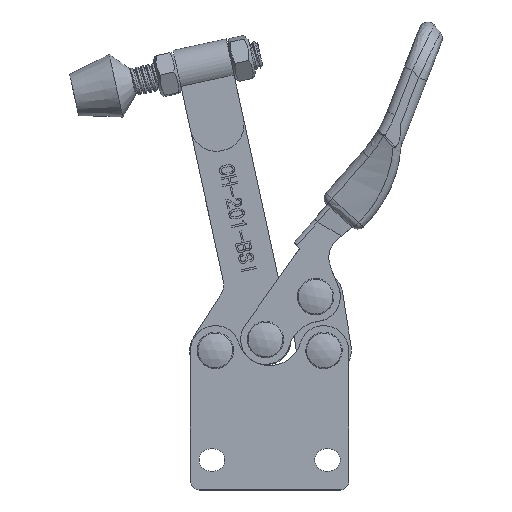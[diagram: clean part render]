
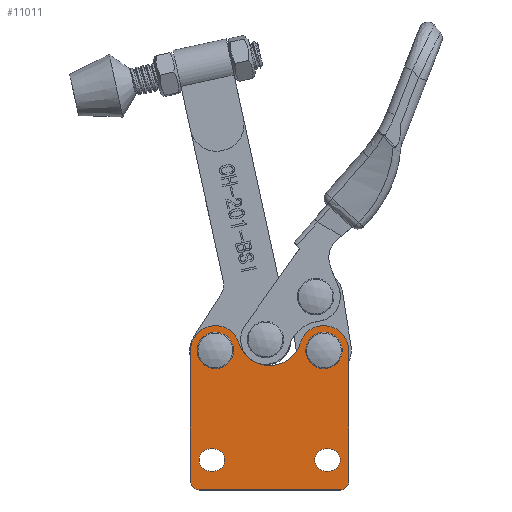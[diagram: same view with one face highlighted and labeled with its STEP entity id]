
A CAD part, top view. The second image highlights one B-rep face of the part: STEP entity #11011.
In plain terms, the highlighted planar face has unit normal (0, 0, 1).
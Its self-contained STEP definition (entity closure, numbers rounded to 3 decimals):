
#409=FACE_BOUND('',#1860,.T.);
#410=FACE_BOUND('',#1861,.T.);
#411=FACE_BOUND('',#1862,.T.);
#412=FACE_BOUND('',#1863,.T.);
#641=PLANE('',#11780);
#1207=FACE_OUTER_BOUND('',#1859,.T.);
#1859=EDGE_LOOP('',(#9971,#9972,#9973,#9974,#9975,#9976,#9977,#9978));
#1860=EDGE_LOOP('',(#9979,#9980,#9981,#9982));
#1861=EDGE_LOOP('',(#9983,#9984));
#1862=EDGE_LOOP('',(#9985,#9986,#9987,#9988));
#1863=EDGE_LOOP('',(#9989,#9990));
#2110=CIRCLE('',#11766,2.4);
#2111=CIRCLE('',#11767,2.4);
#2123=CIRCLE('',#11781,2.);
#2124=CIRCLE('',#11782,5.8);
#2125=CIRCLE('',#11783,7.5);
#2126=CIRCLE('',#11784,5.8);
#2127=CIRCLE('',#11785,2.);
#2128=CIRCLE('',#11786,2.6);
#2129=CIRCLE('',#11787,2.6);
#2130=CIRCLE('',#11788,2.4);
#2131=CIRCLE('',#11789,2.4);
#2132=CIRCLE('',#11790,2.6);
#2133=CIRCLE('',#11791,2.6);
#3476=LINE('',#36658,#4323);
#3477=LINE('',#36666,#4324);
#3478=LINE('',#36669,#4325);
#3479=LINE('',#36674,#4326);
#3480=LINE('',#36677,#4327);
#3481=LINE('',#36686,#4328);
#3482=LINE('',#36689,#4329);
#4323=VECTOR('',#13739,1000.);
#4324=VECTOR('',#13746,1000.);
#4325=VECTOR('',#13749,1000.);
#4326=VECTOR('',#13752,1000.);
#4327=VECTOR('',#13755,1000.);
#4328=VECTOR('',#13762,1000.);
#4329=VECTOR('',#13765,1000.);
#5335=VERTEX_POINT('',#36611);
#5336=VERTEX_POINT('',#36613);
#5355=VERTEX_POINT('',#36654);
#5356=VERTEX_POINT('',#36655);
#5357=VERTEX_POINT('',#36657);
#5358=VERTEX_POINT('',#36659);
#5359=VERTEX_POINT('',#36661);
#5360=VERTEX_POINT('',#36663);
#5361=VERTEX_POINT('',#36665);
#5362=VERTEX_POINT('',#36667);
#5363=VERTEX_POINT('',#36670);
#5364=VERTEX_POINT('',#36671);
#5365=VERTEX_POINT('',#36673);
#5366=VERTEX_POINT('',#36675);
#5367=VERTEX_POINT('',#36678);
#5368=VERTEX_POINT('',#36679);
#5369=VERTEX_POINT('',#36682);
#5370=VERTEX_POINT('',#36683);
#5371=VERTEX_POINT('',#36685);
#5372=VERTEX_POINT('',#36687);
#6900=EDGE_CURVE('',#5335,#5336,#2110,.T.);
#6901=EDGE_CURVE('',#5336,#5335,#2111,.T.);
#6920=EDGE_CURVE('',#5355,#5356,#2123,.T.);
#6921=EDGE_CURVE('',#5356,#5357,#3476,.T.);
#6922=EDGE_CURVE('',#5357,#5358,#2124,.T.);
#6923=EDGE_CURVE('',#5358,#5359,#2125,.T.);
#6924=EDGE_CURVE('',#5359,#5360,#2126,.T.);
#6925=EDGE_CURVE('',#5360,#5361,#3477,.T.);
#6926=EDGE_CURVE('',#5361,#5362,#2127,.T.);
#6927=EDGE_CURVE('',#5362,#5355,#3478,.T.);
#6928=EDGE_CURVE('',#5363,#5364,#2128,.T.);
#6929=EDGE_CURVE('',#5365,#5363,#3479,.T.);
#6930=EDGE_CURVE('',#5366,#5365,#2129,.T.);
#6931=EDGE_CURVE('',#5364,#5366,#3480,.T.);
#6932=EDGE_CURVE('',#5367,#5368,#2130,.T.);
#6933=EDGE_CURVE('',#5368,#5367,#2131,.T.);
#6934=EDGE_CURVE('',#5369,#5370,#2132,.T.);
#6935=EDGE_CURVE('',#5371,#5369,#3481,.T.);
#6936=EDGE_CURVE('',#5372,#5371,#2133,.T.);
#6937=EDGE_CURVE('',#5370,#5372,#3482,.T.);
#9971=ORIENTED_EDGE('',*,*,#6920,.T.);
#9972=ORIENTED_EDGE('',*,*,#6921,.T.);
#9973=ORIENTED_EDGE('',*,*,#6922,.T.);
#9974=ORIENTED_EDGE('',*,*,#6923,.T.);
#9975=ORIENTED_EDGE('',*,*,#6924,.T.);
#9976=ORIENTED_EDGE('',*,*,#6925,.T.);
#9977=ORIENTED_EDGE('',*,*,#6926,.T.);
#9978=ORIENTED_EDGE('',*,*,#6927,.T.);
#9979=ORIENTED_EDGE('',*,*,#6928,.F.);
#9980=ORIENTED_EDGE('',*,*,#6929,.F.);
#9981=ORIENTED_EDGE('',*,*,#6930,.F.);
#9982=ORIENTED_EDGE('',*,*,#6931,.F.);
#9983=ORIENTED_EDGE('',*,*,#6932,.F.);
#9984=ORIENTED_EDGE('',*,*,#6933,.F.);
#9985=ORIENTED_EDGE('',*,*,#6934,.F.);
#9986=ORIENTED_EDGE('',*,*,#6935,.F.);
#9987=ORIENTED_EDGE('',*,*,#6936,.F.);
#9988=ORIENTED_EDGE('',*,*,#6937,.F.);
#9989=ORIENTED_EDGE('',*,*,#6901,.F.);
#9990=ORIENTED_EDGE('',*,*,#6900,.F.);
#11011=ADVANCED_FACE('',(#1207,#409,#410,#411,#412),#641,.F.);
#11766=AXIS2_PLACEMENT_3D('',#36614,#13700,#13701);
#11767=AXIS2_PLACEMENT_3D('',#36615,#13702,#13703);
#11780=AXIS2_PLACEMENT_3D('',#36653,#13735,#13736);
#11781=AXIS2_PLACEMENT_3D('',#36656,#13737,#13738);
#11782=AXIS2_PLACEMENT_3D('',#36660,#13740,#13741);
#11783=AXIS2_PLACEMENT_3D('',#36662,#13742,#13743);
#11784=AXIS2_PLACEMENT_3D('',#36664,#13744,#13745);
#11785=AXIS2_PLACEMENT_3D('',#36668,#13747,#13748);
#11786=AXIS2_PLACEMENT_3D('',#36672,#13750,#13751);
#11787=AXIS2_PLACEMENT_3D('',#36676,#13753,#13754);
#11788=AXIS2_PLACEMENT_3D('',#36680,#13756,#13757);
#11789=AXIS2_PLACEMENT_3D('',#36681,#13758,#13759);
#11790=AXIS2_PLACEMENT_3D('',#36684,#13760,#13761);
#11791=AXIS2_PLACEMENT_3D('',#36688,#13763,#13764);
#13700=DIRECTION('center_axis',(0.,0.,1.));
#13701=DIRECTION('ref_axis',(1.,0.,0.));
#13702=DIRECTION('center_axis',(0.,0.,1.));
#13703=DIRECTION('ref_axis',(1.,0.,0.));
#13735=DIRECTION('center_axis',(0.,0.,-1.));
#13736=DIRECTION('ref_axis',(1.,0.,0.));
#13737=DIRECTION('center_axis',(0.,0.,1.));
#13738=DIRECTION('ref_axis',(1.,0.,0.));
#13739=DIRECTION('',(0.,1.,0.));
#13740=DIRECTION('center_axis',(0.,0.,1.));
#13741=DIRECTION('ref_axis',(-1.,0.,0.));
#13742=DIRECTION('center_axis',(0.,0.,-1.));
#13743=DIRECTION('ref_axis',(1.,0.,0.));
#13744=DIRECTION('center_axis',(0.,0.,1.));
#13745=DIRECTION('ref_axis',(1.,0.,0.));
#13746=DIRECTION('',(0.,-1.,0.));
#13747=DIRECTION('center_axis',(0.,0.,1.));
#13748=DIRECTION('ref_axis',(-1.,0.,0.));
#13749=DIRECTION('',(1.,0.,0.));
#13750=DIRECTION('center_axis',(0.,0.,1.));
#13751=DIRECTION('ref_axis',(1.,0.,0.));
#13752=DIRECTION('',(1.,0.,0.));
#13753=DIRECTION('center_axis',(0.,0.,1.));
#13754=DIRECTION('ref_axis',(1.,0.,0.));
#13755=DIRECTION('',(-1.,0.,0.));
#13756=DIRECTION('center_axis',(0.,0.,1.));
#13757=DIRECTION('ref_axis',(-1.,0.,0.));
#13758=DIRECTION('center_axis',(0.,0.,1.));
#13759=DIRECTION('ref_axis',(-1.,0.,0.));
#13760=DIRECTION('center_axis',(0.,0.,1.));
#13761=DIRECTION('ref_axis',(-1.,0.,0.));
#13762=DIRECTION('',(1.,0.,0.));
#13763=DIRECTION('center_axis',(0.,0.,1.));
#13764=DIRECTION('ref_axis',(-1.,0.,0.));
#13765=DIRECTION('',(-1.,0.,0.));
#36611=CARTESIAN_POINT('',(8.2,32.6,8.));
#36613=CARTESIAN_POINT('',(3.4,32.6,8.));
#36614=CARTESIAN_POINT('Origin',(5.8,32.6,8.));
#36615=CARTESIAN_POINT('Origin',(5.8,32.6,8.));
#36653=CARTESIAN_POINT('Origin',(35.,2.,8.));
#36654=CARTESIAN_POINT('',(35.,0.,8.));
#36655=CARTESIAN_POINT('',(37.,2.,8.));
#36656=CARTESIAN_POINT('Origin',(35.,2.,8.));
#36657=CARTESIAN_POINT('',(37.,32.6,8.));
#36658=CARTESIAN_POINT('',(37.,2.,8.));
#36659=CARTESIAN_POINT('',(25.662,34.323,8.));
#36660=CARTESIAN_POINT('Origin',(31.2,32.6,8.));
#36661=CARTESIAN_POINT('',(11.338,34.323,8.));
#36662=CARTESIAN_POINT('Origin',(18.5,36.55,8.));
#36663=CARTESIAN_POINT('',(0.,32.6,8.));
#36664=CARTESIAN_POINT('Origin',(5.8,32.6,8.));
#36665=CARTESIAN_POINT('',(0.,2.,8.));
#36666=CARTESIAN_POINT('',(0.,2.,8.));
#36667=CARTESIAN_POINT('',(2.,0.,8.));
#36668=CARTESIAN_POINT('Origin',(2.,2.,8.));
#36669=CARTESIAN_POINT('',(2.,0.,8.));
#36670=CARTESIAN_POINT('',(5.4,4.4,8.));
#36671=CARTESIAN_POINT('',(5.4,9.6,8.));
#36672=CARTESIAN_POINT('Origin',(5.4,7.,8.));
#36673=CARTESIAN_POINT('',(4.6,4.4,8.));
#36674=CARTESIAN_POINT('',(4.6,4.4,8.));
#36675=CARTESIAN_POINT('',(4.6,9.6,8.));
#36676=CARTESIAN_POINT('Origin',(4.6,7.,8.));
#36677=CARTESIAN_POINT('',(5.4,9.6,8.));
#36678=CARTESIAN_POINT('',(28.8,32.6,8.));
#36679=CARTESIAN_POINT('',(33.6,32.6,8.));
#36680=CARTESIAN_POINT('Origin',(31.2,32.6,8.));
#36681=CARTESIAN_POINT('Origin',(31.2,32.6,8.));
#36682=CARTESIAN_POINT('',(32.4,4.4,8.));
#36683=CARTESIAN_POINT('',(32.4,9.6,8.));
#36684=CARTESIAN_POINT('Origin',(32.4,7.,8.));
#36685=CARTESIAN_POINT('',(31.6,4.4,8.));
#36686=CARTESIAN_POINT('',(32.4,4.4,8.));
#36687=CARTESIAN_POINT('',(31.6,9.6,8.));
#36688=CARTESIAN_POINT('Origin',(31.6,7.,8.));
#36689=CARTESIAN_POINT('',(31.6,9.6,8.));
